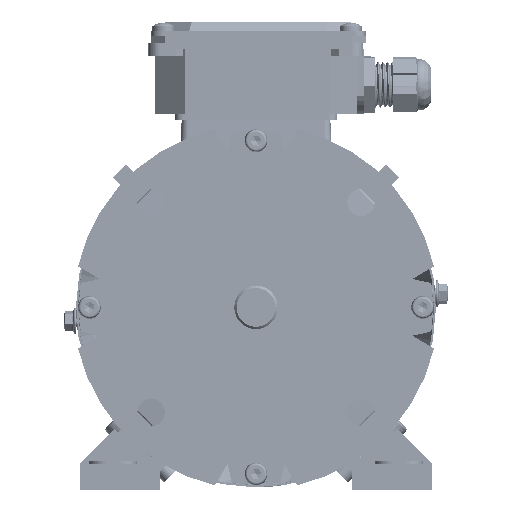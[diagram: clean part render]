
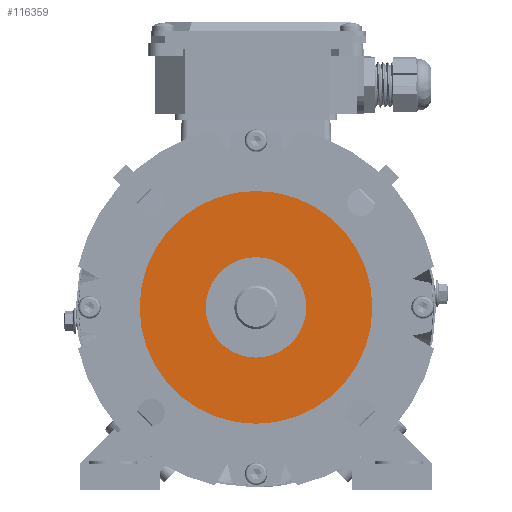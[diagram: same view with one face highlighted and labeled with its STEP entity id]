
A CAD part, front view. The second image highlights one B-rep face of the part: STEP entity #116359.
In plain terms, the highlighted planar face has unit normal (0, -1, 0).
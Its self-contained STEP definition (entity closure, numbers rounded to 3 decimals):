
#1992 = CIRCLE ( 'NONE', #106196, 22. ) ;
#3799 = CIRCLE ( 'NONE', #76092, 51. ) ;
#6439 = CARTESIAN_POINT ( 'NONE',  ( 0., 5.5, 51. ) ) ;
#13898 = DIRECTION ( 'NONE',  ( 0., 0., -1. ) ) ;
#15174 = EDGE_CURVE ( 'NONE', #125497, #45990, #3799, .T. ) ;
#16810 = CARTESIAN_POINT ( 'NONE',  ( 0., 5.5, -22. ) ) ;
#22822 = DIRECTION ( 'NONE',  ( 0., -1., 0. ) ) ;
#28170 = CARTESIAN_POINT ( 'NONE',  ( 0., 5.5, 22. ) ) ;
#32547 = CARTESIAN_POINT ( 'NONE',  ( 0., 5.5, -51. ) ) ;
#35214 = ORIENTED_EDGE ( 'NONE', *, *, #84824, .T. ) ;
#37454 = EDGE_CURVE ( 'NONE', #127536, #114202, #1992, .T. ) ;
#41375 = ORIENTED_EDGE ( 'NONE', *, *, #37454, .F. ) ;
#42777 = DIRECTION ( 'NONE',  ( 0., -1., 0. ) ) ;
#45990 = VERTEX_POINT ( 'NONE', #32547 ) ;
#54505 = CIRCLE ( 'NONE', #132113, 22. ) ;
#55202 = DIRECTION ( 'NONE',  ( 0., -1., 0. ) ) ;
#62950 = CARTESIAN_POINT ( 'NONE',  ( 0., 5.5, 0. ) ) ;
#69268 = EDGE_LOOP ( 'NONE', ( #35214, #86323 ) ) ;
#70932 = FACE_BOUND ( 'NONE', #120761, .T. ) ;
#74245 = DIRECTION ( 'NONE',  ( 0., 0., -1. ) ) ;
#76092 = AXIS2_PLACEMENT_3D ( 'NONE', #109878, #42777, #121119 ) ;
#80502 = PLANE ( 'NONE',  #136585 ) ;
#80976 = DIRECTION ( 'NONE',  ( 0., -1., 0. ) ) ;
#84824 = EDGE_CURVE ( 'NONE', #45990, #125497, #145131, .T. ) ;
#86323 = ORIENTED_EDGE ( 'NONE', *, *, #15174, .T. ) ;
#89817 = CARTESIAN_POINT ( 'NONE',  ( 0., 5.5, 0. ) ) ;
#91797 = AXIS2_PLACEMENT_3D ( 'NONE', #122251, #55202, #133528 ) ;
#100721 = FACE_OUTER_BOUND ( 'NONE', #69268, .T. ) ;
#101105 = DIRECTION ( 'NONE',  ( 0., 0., -1. ) ) ;
#106196 = AXIS2_PLACEMENT_3D ( 'NONE', #89817, #22822, #101105 ) ;
#107459 = ORIENTED_EDGE ( 'NONE', *, *, #139955, .F. ) ;
#109878 = CARTESIAN_POINT ( 'NONE',  ( 0., 5.5, 0. ) ) ;
#114202 = VERTEX_POINT ( 'NONE', #28170 ) ;
#116359 = ADVANCED_FACE ( 'NONE', ( #100721, #70932 ), #80502, .T. ) ;
#120761 = EDGE_LOOP ( 'NONE', ( #41375, #107459 ) ) ;
#121119 = DIRECTION ( 'NONE',  ( 0., 0., -1. ) ) ;
#122251 = CARTESIAN_POINT ( 'NONE',  ( 0., 5.5, 0. ) ) ;
#125497 = VERTEX_POINT ( 'NONE', #6439 ) ;
#125524 = CARTESIAN_POINT ( 'NONE',  ( 51., 5.5, 0. ) ) ;
#127536 = VERTEX_POINT ( 'NONE', #16810 ) ;
#132113 = AXIS2_PLACEMENT_3D ( 'NONE', #62950, #141280, #74245 ) ;
#133528 = DIRECTION ( 'NONE',  ( 0., 0., -1. ) ) ;
#136585 = AXIS2_PLACEMENT_3D ( 'NONE', #125524, #80976, #13898 ) ;
#139955 = EDGE_CURVE ( 'NONE', #114202, #127536, #54505, .T. ) ;
#141280 = DIRECTION ( 'NONE',  ( 0., -1., 0. ) ) ;
#145131 = CIRCLE ( 'NONE', #91797, 51. ) ;
